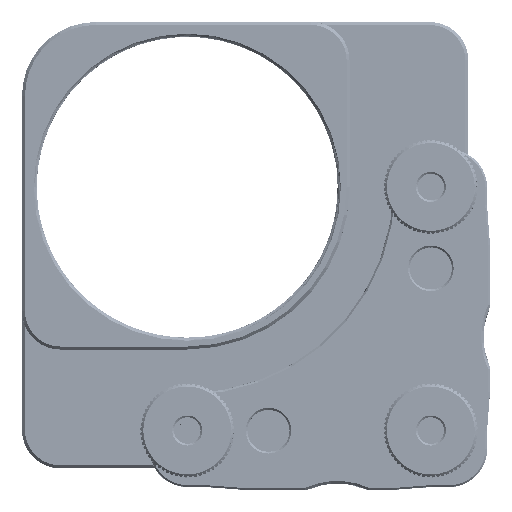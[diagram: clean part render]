
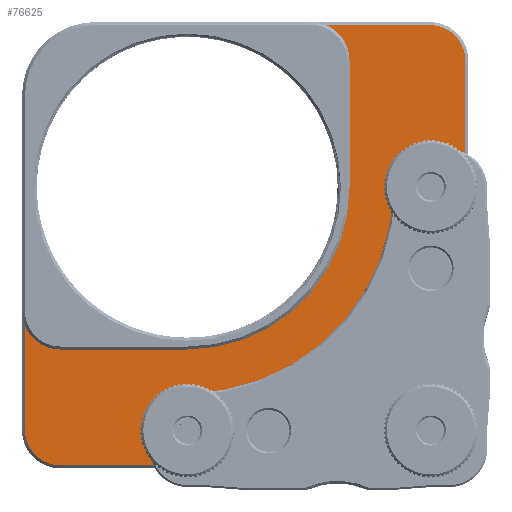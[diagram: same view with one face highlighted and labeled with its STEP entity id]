
A CAD part, top view. The second image highlights one B-rep face of the part: STEP entity #76625.
In plain terms, the highlighted planar face has unit normal (0, 0, 1).
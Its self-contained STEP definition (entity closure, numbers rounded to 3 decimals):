
#71248=CARTESIAN_POINT('',(-49.606,9.525,
-3.429));
#71249=DIRECTION('',(0.,0.,1.));
#71250=DIRECTION('',(0.,-1.,0.));
#71251=AXIS2_PLACEMENT_3D('',#71248,#71249,#71250);
#71253=DIRECTION('',(-1.,0.,0.));
#71254=VECTOR('',#71253,2.388);
#71255=CARTESIAN_POINT('',(-49.606,11.929,-3.429));
#71256=LINE('',#71255,#71254);
#71257=CARTESIAN_POINT('',(-51.994,9.525,
-3.429));
#71258=DIRECTION('',(0.,0.,1.));
#71259=DIRECTION('',(0.,1.,0.));
#71260=AXIS2_PLACEMENT_3D('',#71257,#71258,#71259);
#71262=DIRECTION('',(1.,0.,0.));
#71263=VECTOR('',#71262,2.388);
#71264=CARTESIAN_POINT('',(-51.994,7.121,-3.429));
#71265=LINE('',#71264,#71263);
#71266=CARTESIAN_POINT('',(-9.525,9.525,
-3.429));
#71267=DIRECTION('',(0.,0.,1.));
#71268=DIRECTION('',(1.,0.,0.));
#71269=AXIS2_PLACEMENT_3D('',#71266,#71267,#71268);
#71271=CARTESIAN_POINT('',(-9.525,9.525,
-3.429));
#71272=DIRECTION('',(0.,0.,1.));
#71273=DIRECTION('',(-1.,0.,0.));
#71274=AXIS2_PLACEMENT_3D('',#71271,#71272,#71273);
#71276=CARTESIAN_POINT('',(-9.525,50.8,-3.429));
#71277=DIRECTION('',(0.,0.,-1.));
#71278=DIRECTION('',(1.,0.,0.));
#71279=AXIS2_PLACEMENT_3D('',#71276,#71277,#71278);
#71281=CARTESIAN_POINT('',(-9.525,50.8,-3.429));
#71282=DIRECTION('',(0.,0.,-1.));
#71283=DIRECTION('',(-1.,0.,0.));
#71284=AXIS2_PLACEMENT_3D('',#71281,#71282,#71283);
#71286=CARTESIAN_POINT('',(-9.525,37.033,-3.429));
#71287=DIRECTION('',(0.,0.,-1.));
#71288=DIRECTION('',(1.,0.,0.));
#71289=AXIS2_PLACEMENT_3D('',#71286,#71287,#71288);
#71291=CARTESIAN_POINT('',(-9.525,37.033,-3.429));
#71292=DIRECTION('',(0.,0.,-1.));
#71293=DIRECTION('',(-1.,0.,0.));
#71294=AXIS2_PLACEMENT_3D('',#71291,#71292,#71293);
#71296=CARTESIAN_POINT('',(-37.033,9.525,-3.429));
#71297=DIRECTION('',(0.,0.,-1.));
#71298=DIRECTION('',(1.,0.,0.));
#71299=AXIS2_PLACEMENT_3D('',#71296,#71297,#71298);
#71301=CARTESIAN_POINT('',(-37.033,9.525,-3.429));
#71302=DIRECTION('',(0.,0.,-1.));
#71303=DIRECTION('',(-1.,0.,0.));
#71304=AXIS2_PLACEMENT_3D('',#71301,#71302,#71303);
#71306=DIRECTION('',(-1.,0.,0.));
#71307=VECTOR('',#71306,17.625);
#71308=CARTESIAN_POINT('',(-9.675,78.3,
-3.429));
#71309=LINE('',#71308,#71307);
#71310=CARTESIAN_POINT('',(-9.675,72.3,-3.429));
#71311=DIRECTION('',(0.,0.,1.));
#71312=DIRECTION('',(1.,0.,0.));
#71313=AXIS2_PLACEMENT_3D('',#71310,#71311,#71312);
#71315=DIRECTION('',(0.,1.,0.));
#71316=VECTOR('',#71315,62.775);
#71317=CARTESIAN_POINT('',(-3.675,9.525,
-3.429));
#71318=LINE('',#71317,#71316);
#71319=CARTESIAN_POINT('',(-9.525,9.525,-3.429));
#71320=DIRECTION('',(0.,0.,1.));
#71321=DIRECTION('',(0.,-1.,0.));
#71322=AXIS2_PLACEMENT_3D('',#71319,#71320,#71321);
#71324=DIRECTION('',(1.,0.,0.));
#71325=VECTOR('',#71324,62.775);
#71326=CARTESIAN_POINT('',(-72.3,3.675,
-3.429));
#71327=LINE('',#71326,#71325);
#71328=CARTESIAN_POINT('',(-72.3,9.675,-3.429));
#71329=DIRECTION('',(0.,0.,1.));
#71330=DIRECTION('',(-1.,0.,0.));
#71331=AXIS2_PLACEMENT_3D('',#71328,#71329,#71330);
#71333=DIRECTION('',(0.,-1.,0.));
#71334=VECTOR('',#71333,17.625);
#71335=CARTESIAN_POINT('',(-78.3,27.3,-3.429));
#71336=LINE('',#71335,#71334);
#71337=DIRECTION('',(1.,0.,0.));
#71338=VECTOR('',#71337,21.5);
#71339=CARTESIAN_POINT('',(-72.3,23.3,-3.429));
#71340=LINE('',#71339,#71338);
#71341=CARTESIAN_POINT('',(-50.8,50.8,-3.429));
#71342=DIRECTION('',(0.,0.,1.));
#71343=DIRECTION('',(0.,-1.,0.));
#71344=AXIS2_PLACEMENT_3D('',#71341,#71342,#71343);
#71346=DIRECTION('',(0.,-1.,0.));
#71347=VECTOR('',#71346,21.5);
#71348=CARTESIAN_POINT('',(-23.3,72.3,-3.429));
#71349=LINE('',#71348,#71347);
#75489=CARTESIAN_POINT('',(-72.3,29.8,-3.429));
#75490=DIRECTION('',(0.,0.,-1.));
#75491=DIRECTION('',(0.,-1.,0.));
#75492=AXIS2_PLACEMENT_3D('',#75489,#75490,#75491);
#75993=CARTESIAN_POINT('',(-29.8,72.3,-3.429));
#75994=DIRECTION('',(0.,0.,-1.));
#75995=DIRECTION('',(0.385,0.923,0.));
#75996=AXIS2_PLACEMENT_3D('',#75993,#75994,#75995);
#76217=CARTESIAN_POINT('',(-11.913,9.525,
-3.429));
#76219=VERTEX_POINT('',#76217);
#76220=CARTESIAN_POINT('',(-7.137,9.525,
-3.429));
#76222=VERTEX_POINT('',#76220);
#76228=CARTESIAN_POINT('',(-6.075,50.8,-3.429));
#76229=CARTESIAN_POINT('',(-12.975,50.8,-3.429));
#76230=VERTEX_POINT('',#76228);
#76231=VERTEX_POINT('',#76229);
#76236=CARTESIAN_POINT('',(-5.756,37.033,-3.429));
#76237=CARTESIAN_POINT('',(-13.294,37.033,-3.429));
#76238=VERTEX_POINT('',#76236);
#76239=VERTEX_POINT('',#76237);
#76244=CARTESIAN_POINT('',(-33.265,9.525,-3.429));
#76245=CARTESIAN_POINT('',(-40.802,9.525,-3.429));
#76246=VERTEX_POINT('',#76244);
#76247=VERTEX_POINT('',#76245);
#76268=CARTESIAN_POINT('',(-50.8,23.3,-3.429));
#76269=CARTESIAN_POINT('',(-23.3,50.8,-3.429));
#76270=VERTEX_POINT('',#76268);
#76271=VERTEX_POINT('',#76269);
#76272=CARTESIAN_POINT('',(-23.3,72.3,-3.429));
#76273=VERTEX_POINT('',#76272);
#76274=CARTESIAN_POINT('',(-72.3,23.3,-3.429));
#76275=VERTEX_POINT('',#76274);
#76490=CARTESIAN_POINT('',(-9.675,78.3,
-3.429));
#76491=CARTESIAN_POINT('',(-27.3,78.3,-3.429));
#76492=VERTEX_POINT('',#76490);
#76493=VERTEX_POINT('',#76491);
#76494=CARTESIAN_POINT('',(-3.675,72.3,-3.429));
#76495=VERTEX_POINT('',#76494);
#76496=CARTESIAN_POINT('',(-3.675,9.525,
-3.429));
#76497=VERTEX_POINT('',#76496);
#76498=CARTESIAN_POINT('',(-9.525,3.675,-3.429));
#76499=VERTEX_POINT('',#76498);
#76500=CARTESIAN_POINT('',(-72.3,3.675,
-3.429));
#76501=VERTEX_POINT('',#76500);
#76502=CARTESIAN_POINT('',(-78.3,9.675,-3.429));
#76503=VERTEX_POINT('',#76502);
#76504=CARTESIAN_POINT('',(-78.3,27.3,-3.429));
#76505=VERTEX_POINT('',#76504);
#76516=CARTESIAN_POINT('',(-49.606,11.929,-3.429));
#76517=CARTESIAN_POINT('',(-51.994,11.929,-3.429));
#76518=VERTEX_POINT('',#76516);
#76519=VERTEX_POINT('',#76517);
#76520=CARTESIAN_POINT('',(-51.994,7.121,-3.429));
#76521=CARTESIAN_POINT('',(-49.606,7.121,-3.429));
#76522=VERTEX_POINT('',#76520);
#76523=VERTEX_POINT('',#76521);
#76560=CARTESIAN_POINT('',(-40.881,40.886,-3.429));
#76561=DIRECTION('',(0.,0.,1.));
#76562=DIRECTION('',(0.,-1.,0.));
#76563=AXIS2_PLACEMENT_3D('',#76560,#76561,#76562);
#76564=PLANE('',#76563);
#76566=ORIENTED_EDGE('',*,*,#76565,.F.);
#76568=ORIENTED_EDGE('',*,*,#76567,.F.);
#76570=ORIENTED_EDGE('',*,*,#76569,.F.);
#76572=ORIENTED_EDGE('',*,*,#76571,.F.);
#76574=ORIENTED_EDGE('',*,*,#76573,.F.);
#76576=ORIENTED_EDGE('',*,*,#76575,.F.);
#76578=ORIENTED_EDGE('',*,*,#76577,.F.);
#76580=ORIENTED_EDGE('',*,*,#76579,.F.);
#76582=ORIENTED_EDGE('',*,*,#76581,.T.);
#76584=ORIENTED_EDGE('',*,*,#76583,.T.);
#76586=ORIENTED_EDGE('',*,*,#76585,.F.);
#76588=ORIENTED_EDGE('',*,*,#76587,.F.);
#76589=EDGE_LOOP('',(#76566,#76568,#76570,#76572,#76574,#76576,#76578,#76580,
#76582,#76584,#76586,#76588));
#76590=FACE_OUTER_BOUND('',#76589,.F.);
#76592=ORIENTED_EDGE('',*,*,#76591,.T.);
#76594=ORIENTED_EDGE('',*,*,#76593,.T.);
#76595=EDGE_LOOP('',(#76592,#76594));
#76596=FACE_BOUND('',#76595,.F.);
#76598=ORIENTED_EDGE('',*,*,#76597,.F.);
#76600=ORIENTED_EDGE('',*,*,#76599,.F.);
#76601=EDGE_LOOP('',(#76598,#76600));
#76602=FACE_BOUND('',#76601,.F.);
#76604=ORIENTED_EDGE('',*,*,#76603,.F.);
#76606=ORIENTED_EDGE('',*,*,#76605,.F.);
#76607=EDGE_LOOP('',(#76604,#76606));
#76608=FACE_BOUND('',#76607,.F.);
#76610=ORIENTED_EDGE('',*,*,#76609,.F.);
#76612=ORIENTED_EDGE('',*,*,#76611,.F.);
#76613=EDGE_LOOP('',(#76610,#76612));
#76614=FACE_BOUND('',#76613,.F.);
#76616=ORIENTED_EDGE('',*,*,#76615,.T.);
#76618=ORIENTED_EDGE('',*,*,#76617,.T.);
#76620=ORIENTED_EDGE('',*,*,#76619,.T.);
#76622=ORIENTED_EDGE('',*,*,#76621,.T.);
#76623=EDGE_LOOP('',(#76616,#76618,#76620,#76622));
#76624=FACE_BOUND('',#76623,.F.);
#76625=ADVANCED_FACE('',(#76590,#76596,#76602,#76608,#76614,#76624),#76564,.T.);
#71252=CIRCLE('',#71251,2.404);
#71261=CIRCLE('',#71260,2.404);
#71270=CIRCLE('',#71269,2.388);
#71275=CIRCLE('',#71274,2.388);
#71280=CIRCLE('',#71279,3.45);
#71285=CIRCLE('',#71284,3.45);
#71290=CIRCLE('',#71289,3.769);
#71295=CIRCLE('',#71294,3.769);
#71300=CIRCLE('',#71299,3.769);
#71305=CIRCLE('',#71304,3.769);
#71314=CIRCLE('',#71313,6.);
#71323=CIRCLE('',#71322,5.85);
#71332=CIRCLE('',#71331,6.);
#71345=CIRCLE('',#71344,27.5);
#75493=CIRCLE('',#75492,6.5);
#75997=CIRCLE('',#75996,6.5);
#76565=EDGE_CURVE('',#76492,#76493,#71309,.T.);
#76567=EDGE_CURVE('',#76495,#76492,#71314,.T.);
#76569=EDGE_CURVE('',#76497,#76495,#71318,.T.);
#76571=EDGE_CURVE('',#76499,#76497,#71323,.T.);
#76573=EDGE_CURVE('',#76501,#76499,#71327,.T.);
#76575=EDGE_CURVE('',#76503,#76501,#71332,.T.);
#76577=EDGE_CURVE('',#76505,#76503,#71336,.T.);
#76579=EDGE_CURVE('',#76275,#76505,#75493,.T.);
#76581=EDGE_CURVE('',#76275,#76270,#71340,.T.);
#76583=EDGE_CURVE('',#76270,#76271,#71345,.T.);
#76585=EDGE_CURVE('',#76273,#76271,#71349,.T.);
#76587=EDGE_CURVE('',#76493,#76273,#75997,.T.);
#76591=EDGE_CURVE('',#76222,#76219,#71270,.T.);
#76593=EDGE_CURVE('',#76219,#76222,#71275,.T.);
#76597=EDGE_CURVE('',#76230,#76231,#71280,.T.);
#76599=EDGE_CURVE('',#76231,#76230,#71285,.T.);
#76603=EDGE_CURVE('',#76238,#76239,#71290,.T.);
#76605=EDGE_CURVE('',#76239,#76238,#71295,.T.);
#76609=EDGE_CURVE('',#76246,#76247,#71300,.T.);
#76611=EDGE_CURVE('',#76247,#76246,#71305,.T.);
#76615=EDGE_CURVE('',#76523,#76518,#71252,.T.);
#76617=EDGE_CURVE('',#76518,#76519,#71256,.T.);
#76619=EDGE_CURVE('',#76519,#76522,#71261,.T.);
#76621=EDGE_CURVE('',#76522,#76523,#71265,.T.);
